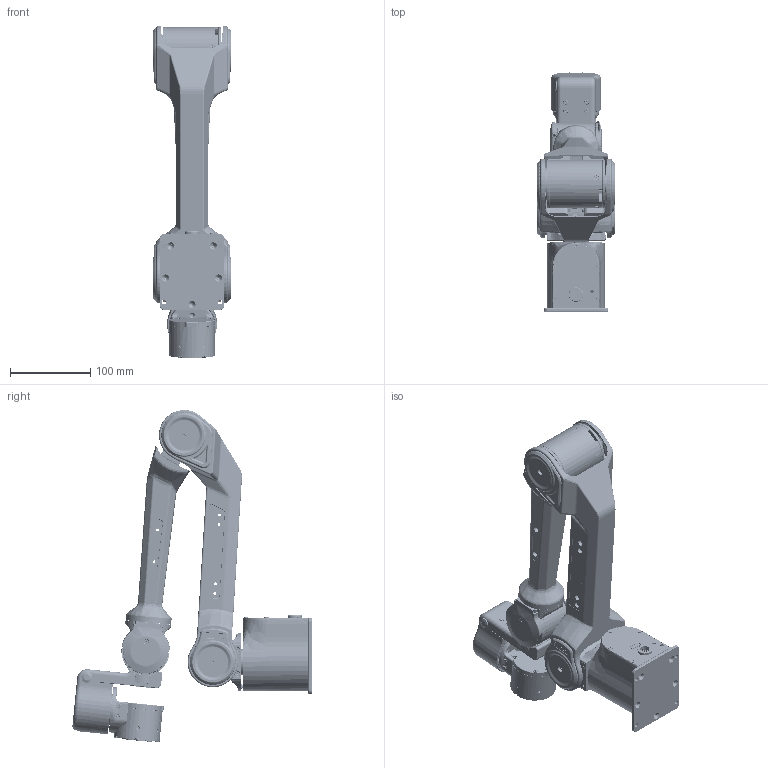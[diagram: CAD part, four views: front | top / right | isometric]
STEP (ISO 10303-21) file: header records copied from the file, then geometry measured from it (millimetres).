
FILE_DESCRIPTION (( 'STEP AP203' ), '1' );
FILE_NAME ('PIPER-X潠趙耀倰.STEP', '2025-07-02T06:31:48', ( '' ), ( '' ), 'SwSTEP 2.0', 'SolidWorks 2019', '' );
FILE_SCHEMA (( 'CONFIG_CONTROL_DESIGN' ));
Length unit declared in the file: millimetre
Products named in the file (16): SOLID^CONN-TH_4P-XT30PW-M_CN1_3D_PCB5_2024-02-22(2)_3D_PCB5_2024-02-22_1; hexagon socket head cap screws gb_GB_FASTENER_SCREWS_HSHCS M3X10-N; J1X; J4X; J5X; 麥芛m2.6; hexagon socket countersunk head screws gb_GB_FASTENER_SCREWS_HSCHS M3X16-N; J6X; J2釱X; M-JXB2-130095-A; M-JXB2-130114-B; PIPER-X潠趙耀倰; J3X; 脣釱; J2X; Сͷm2.5.8
Assembly tree (68 placements, depth 2):
  PIPER-X潠趙耀倰
    J1X
    J2X
    J2釱X
    J3X
    J4X
    J5X
    J6X
    M-JXB2-130095-A
    脣釱
    hexagon socket countersunk head screws gb_GB_FASTENER_SCREWS_HSCHS M3X16-N  x17
    M-JXB2-130114-B
    麥芛m2.6  x12
    Сͷm2.5.8  x20
    SOLID^CONN-TH_4P-XT30PW-M_CN1_3D_PCB5_2024-02-22(2)_3D_PCB5_2024-02-22_1
    hexagon socket head cap screws gb_GB_FASTENER_SCREWS_HSHCS M3X10-N  x8
Bounding box: 97 x 298.21 x 414.02 mm (x, y, z)
Volume: 908850.7 mm3; surface area: 653749 mm2
Topology: 105 solids, 109 shells, 9858 faces, 24990 edges, 15211 vertices
Faces by surface type: plane 3441, cylinder 2899, cone 1712, bspline 1281, torus 396, sphere 129
Full cylindrical faces by diameter (mm): 0.517 x2, 0.8 x8, 1.25 x4, 1.3 x8, 1.6 x36, 2 x16, 2.05 x50, 2.2 x4, 2.5 x160, 2.6 x12, 2.8 x18, 2.9 x13, 3 x37, 3.1 x4, 3.2 x14, 3.3 x5, 3.4 x130, 3.5 x8, 3.6 x8, 3.7 x20, 3.9 x2, 4 x34, 4.1 x4, 4.5 x5, 5 x46, 5.2 x4, 5.4 x4, 5.5 x8, 5.54 x17, 5.8 x1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
Entity records: 371913 total; most frequent: CARTESIAN_POINT 168411, ORIENTED_EDGE 41556, DIRECTION 40213, EDGE_CURVE 20778, AXIS2_PLACEMENT_3D 15856, VERTEX_POINT 13385, EDGE_LOOP 11181, FACE_OUTER_BOUND 9795
